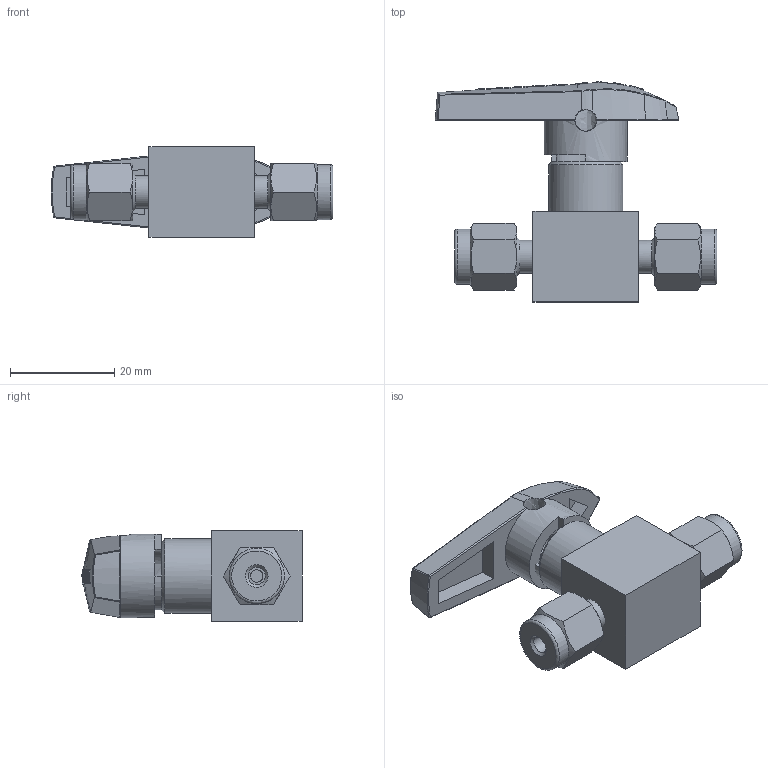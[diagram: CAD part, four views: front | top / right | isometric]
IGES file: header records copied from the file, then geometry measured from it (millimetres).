
Global section: file name: SBV120H1-S2-S316; native system: Autodesk Inventor 2016; preprocessor: unknown; author: 이승민,,11,0; organization: 20161215.101013; date: 20161216.190724; units: millimetre
Bounding box: 54.18 x 42.29 x 17.4 mm (x, y, z)
Volume: 13011.2 mm3; surface area: 6825.3 mm2
Topology: 2 solids, 2 shells, 289 faces, 754 edges, 494 vertices
Faces by surface type: bspline 289
